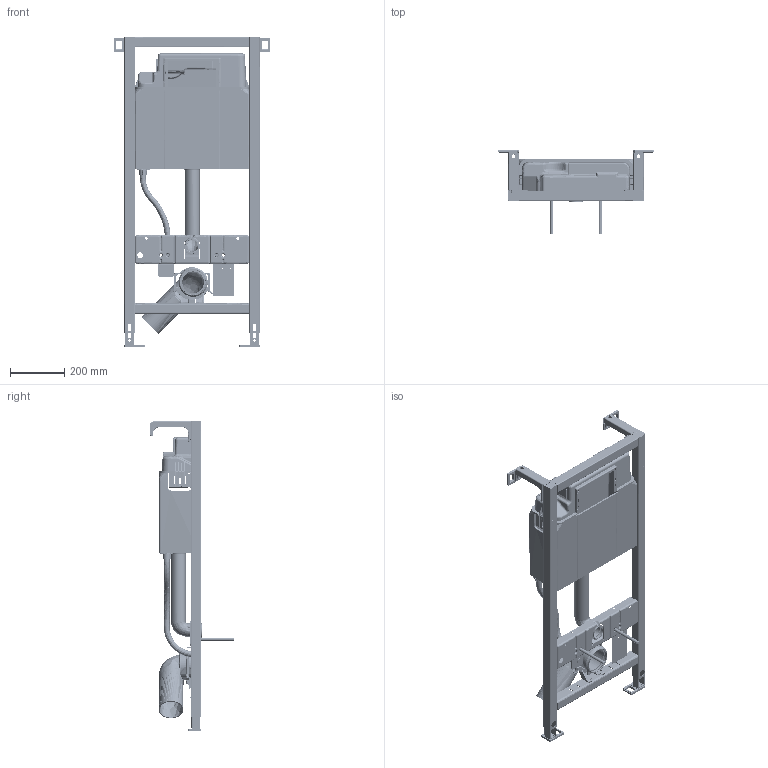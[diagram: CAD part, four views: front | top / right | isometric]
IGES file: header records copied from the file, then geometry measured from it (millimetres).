
Global section: file name: d:\users\matthias.isele\Desktop\planungsdaten_erstellen\W&W\DuraSystem\WD1013\WD1013.igs; native system: Rhinoceros ( Sep 13 2016 ); preprocessor: Trout Lake IGES 012 Sep 13 2016; date: 210629.073548; units: millimetre
Bounding box: 578.39 x 311.5 x 1147.5 mm (x, y, z)
Surface area: 2434558.3 mm2 (no closed solid volume)
Topology: 0 solids, 0 shells, 7388 faces, 53980 edges, 53855 vertices
Faces by surface type: bspline 7388
